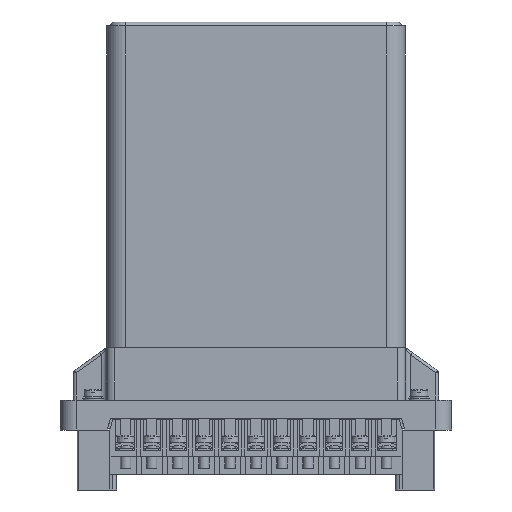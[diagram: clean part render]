
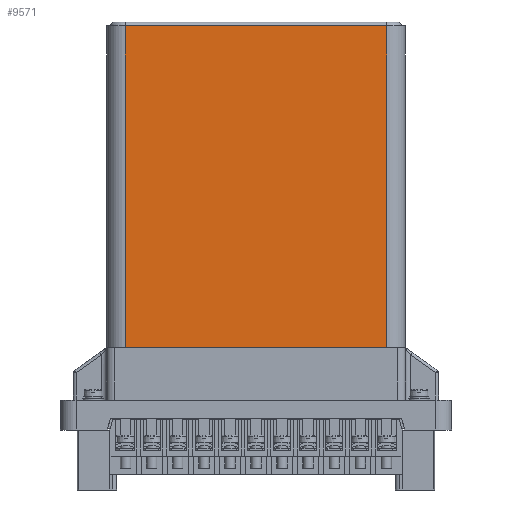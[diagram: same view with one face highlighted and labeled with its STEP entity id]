
A CAD part, left-side view. The second image highlights one B-rep face of the part: STEP entity #9571.
In plain terms, the highlighted planar face has unit normal (-1, 0, 0).
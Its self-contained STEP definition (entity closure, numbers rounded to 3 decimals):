
#9571=ADVANCED_FACE('',(#77343),#77345,.T.);
#77343=FACE_BOUND('',#77344,.T.);
#77344=EDGE_LOOP('',(#131091,#131092,#131093,#131094));
#77345=PLANE('',#77346);
#77346=AXIS2_PLACEMENT_3D('',#77347,#77348,#77349);
#77347=CARTESIAN_POINT('',(-32.15,50.15,31.5));
#77348=DIRECTION('',(-1.,0.,0.));
#77349=DIRECTION('',(0.,-1.,0.));
#131091=ORIENTED_EDGE('',*,*,#166278,.T.);
#131092=ORIENTED_EDGE('',*,*,#167464,.T.);
#131093=ORIENTED_EDGE('',*,*,#167465,.F.);
#131094=ORIENTED_EDGE('',*,*,#167466,.F.);
#166278=EDGE_CURVE('',#186840,#186838,#186841,.T.);
#167464=EDGE_CURVE('',#186838,#189146,#189148,.T.);
#167465=EDGE_CURVE('',#189149,#189146,#189150,.T.);
#167466=EDGE_CURVE('',#186840,#189149,#189151,.T.);
#186838=VERTEX_POINT('',#223036);
#186840=VERTEX_POINT('',#223041);
#186841=LINE('',#223042,#223043);
#189146=VERTEX_POINT('',#228374);
#189148=LINE('',#228379,#228380);
#189149=VERTEX_POINT('',#228382);
#189150=LINE('',#228383,#228384);
#189151=LINE('',#228386,#228387);
#223036=CARTESIAN_POINT('',(-32.15,-50.15,31.5));
#223041=CARTESIAN_POINT('',(-32.15,50.15,31.5));
#223042=CARTESIAN_POINT('',(-32.15,50.15,31.5));
#223043=VECTOR('',#223044,1.);
#223044=DIRECTION('',(0.,-1.,0.));
#228374=CARTESIAN_POINT('',(-32.15,-50.15,155.));
#228379=CARTESIAN_POINT('',(-32.15,-50.15,31.5));
#228380=VECTOR('',#228381,1.);
#228381=DIRECTION('',(0.,0.,1.));
#228382=CARTESIAN_POINT('',(-32.15,50.15,155.));
#228383=CARTESIAN_POINT('',(-32.15,50.15,155.));
#228384=VECTOR('',#228385,1.);
#228385=DIRECTION('',(0.,-1.,0.));
#228386=CARTESIAN_POINT('',(-32.15,50.15,31.5));
#228387=VECTOR('',#228388,1.);
#228388=DIRECTION('',(0.,0.,1.));
